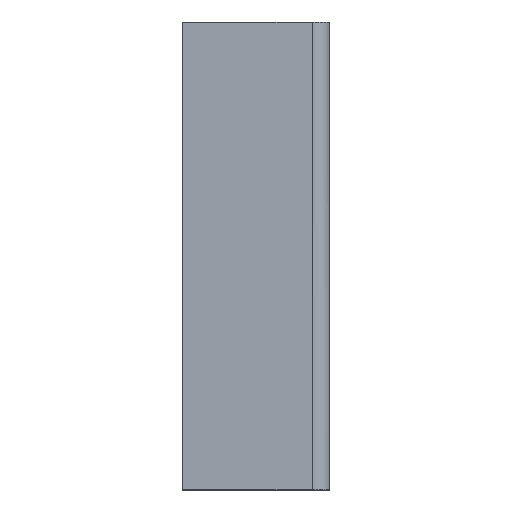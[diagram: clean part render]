
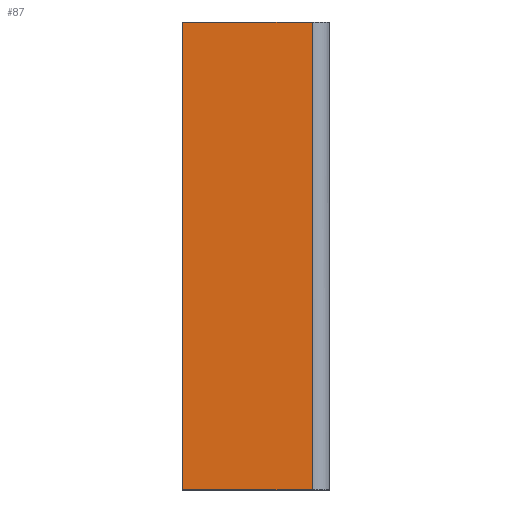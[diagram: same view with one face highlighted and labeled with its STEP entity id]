
A CAD part, left-side view. The second image highlights one B-rep face of the part: STEP entity #87.
In plain terms, the highlighted free-form (B-spline) face has degree [2, 1] with [3, 2] control points.
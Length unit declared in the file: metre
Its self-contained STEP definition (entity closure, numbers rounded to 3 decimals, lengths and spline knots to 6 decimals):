
#87=ADVANCED_FACE('',(#147),#2101,.T.);
#147=FACE_OUTER_BOUND('',#209,.T.);
#209=EDGE_LOOP('',(#359,#360,#361,#362));
#359=ORIENTED_EDGE('',*,*,#1614,.T.);
#360=ORIENTED_EDGE('',*,*,#1595,.F.);
#361=ORIENTED_EDGE('',*,*,#1615,.T.);
#362=ORIENTED_EDGE('',*,*,#1612,.F.);
#646=PCURVE('',#2094,#958);
#668=PCURVE('',#2100,#980);
#671=PCURVE('',#2101,#983);
#672=PCURVE('',#2101,#984);
#673=PCURVE('',#2101,#985);
#674=PCURVE('',#2101,#986);
#695=PCURVE('',#2075,#1007);
#715=PCURVE('',#2076,#1027);
#958=DEFINITIONAL_REPRESENTATION('',(#1244),#3752);
#980=DEFINITIONAL_REPRESENTATION('',(#1266),#3752);
#983=DEFINITIONAL_REPRESENTATION('',(#1269),#3752);
#984=DEFINITIONAL_REPRESENTATION('',(#1270),#3752);
#985=DEFINITIONAL_REPRESENTATION('',(#1271),#3752);
#986=DEFINITIONAL_REPRESENTATION('',(#1272),#3752);
#1007=DEFINITIONAL_REPRESENTATION('',(#1813),#3752);
#1027=DEFINITIONAL_REPRESENTATION('',(#1833),#3752);
#1244=B_SPLINE_CURVE_WITH_KNOTS('',1,(#2685,#2686),.UNSPECIFIED.,.F.,.F.,
(2,2),(-150.,0.),.UNSPECIFIED.);
#1266=B_SPLINE_CURVE_WITH_KNOTS('',1,(#2774,#2775),.UNSPECIFIED.,.F.,.F.,
(2,2),(0.,150.),.UNSPECIFIED.);
#1269=B_SPLINE_CURVE_WITH_KNOTS('',1,(#2786,#2787),.UNSPECIFIED.,.F.,.F.,
(2,2),(169.216762,244.069575),.UNSPECIFIED.);
#1270=B_SPLINE_CURVE_WITH_KNOTS('',1,(#2788,#2789),.UNSPECIFIED.,.F.,.F.,
(2,2),(-150.,0.),.UNSPECIFIED.);
#1271=B_SPLINE_CURVE_WITH_KNOTS('',1,(#2793,#2794),.UNSPECIFIED.,.F.,.F.,
(2,2),(-244.069575,-169.216762),.UNSPECIFIED.);
#1272=B_SPLINE_CURVE_WITH_KNOTS('',1,(#2795,#2796),.UNSPECIFIED.,.F.,.F.,
(2,2),(0.,150.),.UNSPECIFIED.);
#1439=SURFACE_CURVE('',#1777,(#646,#672),.PCURVE_S1.);
#1456=SURFACE_CURVE('',#1794,(#668,#674),.PCURVE_S1.);
#1458=SURFACE_CURVE('',#1796,(#671,#695),.PCURVE_S1.);
#1459=SURFACE_CURVE('',#1797,(#673,#715),.PCURVE_S1.);
#1595=EDGE_CURVE('',#1998,#1995,#1439,.T.);
#1612=EDGE_CURVE('',#2009,#2010,#1456,.T.);
#1614=EDGE_CURVE('',#2009,#1995,#1458,.T.);
#1615=EDGE_CURVE('',#1998,#2010,#1459,.T.);
#1777=(
BOUNDED_CURVE()
B_SPLINE_CURVE(1,(#2683,#2684),.UNSPECIFIED.,.F.,.F.)
B_SPLINE_CURVE_WITH_KNOTS((2,2),(-150.,0.),.UNSPECIFIED.)
CURVE()
GEOMETRIC_REPRESENTATION_ITEM()
RATIONAL_B_SPLINE_CURVE((1.,1.))
REPRESENTATION_ITEM('')
);
#1794=(
BOUNDED_CURVE()
B_SPLINE_CURVE(1,(#2772,#2773),.UNSPECIFIED.,.F.,.F.)
B_SPLINE_CURVE_WITH_KNOTS((2,2),(0.,150.),.UNSPECIFIED.)
CURVE()
GEOMETRIC_REPRESENTATION_ITEM()
RATIONAL_B_SPLINE_CURVE((1.,1.))
REPRESENTATION_ITEM('')
);
#1796=(
BOUNDED_CURVE()
B_SPLINE_CURVE(2,(#2783,#2784,#2785),.UNSPECIFIED.,.F.,.F.)
B_SPLINE_CURVE_WITH_KNOTS((3,3),(169.216762,244.069575),
 .UNSPECIFIED.)
CURVE()
GEOMETRIC_REPRESENTATION_ITEM()
RATIONAL_B_SPLINE_CURVE((1.,1.,1.))
REPRESENTATION_ITEM('')
);
#1797=(
BOUNDED_CURVE()
B_SPLINE_CURVE(2,(#2790,#2791,#2792),.UNSPECIFIED.,.F.,.F.)
B_SPLINE_CURVE_WITH_KNOTS((3,3),(-244.069575,-169.216762),
 .UNSPECIFIED.)
CURVE()
GEOMETRIC_REPRESENTATION_ITEM()
RATIONAL_B_SPLINE_CURVE((1.,1.,1.))
REPRESENTATION_ITEM('')
);
#1813=(
BOUNDED_CURVE()
B_SPLINE_CURVE(2,(#2877,#2878,#2879),.UNSPECIFIED.,.F.,.F.)
B_SPLINE_CURVE_WITH_KNOTS((3,3),(169.216762,244.069575),
 .UNSPECIFIED.)
CURVE()
GEOMETRIC_REPRESENTATION_ITEM()
RATIONAL_B_SPLINE_CURVE((1.,1.,1.))
REPRESENTATION_ITEM('')
);
#1833=(
BOUNDED_CURVE()
B_SPLINE_CURVE(2,(#2937,#2938,#2939),.UNSPECIFIED.,.F.,.F.)
B_SPLINE_CURVE_WITH_KNOTS((3,3),(-244.069575,-169.216762),
 .UNSPECIFIED.)
CURVE()
GEOMETRIC_REPRESENTATION_ITEM()
RATIONAL_B_SPLINE_CURVE((1.,1.,1.))
REPRESENTATION_ITEM('')
);
#1995=VERTEX_POINT('',#2643);
#1998=VERTEX_POINT('',#2646);
#2009=VERTEX_POINT('',#2657);
#2010=VERTEX_POINT('',#2658);
#2075=B_SPLINE_SURFACE_WITH_KNOTS('',1,1,((#2635,#2636),(#2637,#2638)),
 .UNSPECIFIED.,.F.,.F.,.F.,(2,2),(2,2),(-83.459415,22.606602),
(-83.459415,22.606602),.UNSPECIFIED.);
#2076=B_SPLINE_SURFACE_WITH_KNOTS('',1,1,((#2639,#2640),(#2641,#2642)),
 .UNSPECIFIED.,.F.,.F.,.F.,(2,2),(2,2),(-83.459415,22.606602),
(-83.459415,22.606602),.UNSPECIFIED.);
#2094=(
BOUNDED_SURFACE()
B_SPLINE_SURFACE(2,1,((#2557,#2558),(#2559,#2560),(#2561,#2562)),
 .UNSPECIFIED.,.F.,.F.,.F.)
B_SPLINE_SURFACE_WITH_KNOTS((3,3),(2,2),(-15.707963,0.),(0.,150.),
 .UNSPECIFIED.)
GEOMETRIC_REPRESENTATION_ITEM()
RATIONAL_B_SPLINE_SURFACE(((1.,1.),(0.707,0.707),
(1.,1.)))
REPRESENTATION_ITEM('')
SURFACE()
);
#2100=(
BOUNDED_SURFACE()
B_SPLINE_SURFACE(2,1,((#2593,#2594),(#2595,#2596),(#2597,#2598)),
 .UNSPECIFIED.,.F.,.F.,.F.)
B_SPLINE_SURFACE_WITH_KNOTS((3,3),(2,2),(99.216762,169.216762),
(0.,150.),.UNSPECIFIED.)
GEOMETRIC_REPRESENTATION_ITEM()
RATIONAL_B_SPLINE_SURFACE(((1.,1.),(1.,1.),(1.,1.)))
REPRESENTATION_ITEM('')
SURFACE()
);
#2101=(
BOUNDED_SURFACE()
B_SPLINE_SURFACE(2,1,((#2599,#2600),(#2601,#2602),(#2603,#2604)),
 .UNSPECIFIED.,.F.,.F.,.F.)
B_SPLINE_SURFACE_WITH_KNOTS((3,3),(2,2),(169.216762,244.069575),
(0.,150.),.UNSPECIFIED.)
GEOMETRIC_REPRESENTATION_ITEM()
RATIONAL_B_SPLINE_SURFACE(((1.,1.),(1.,1.),(1.,1.)))
REPRESENTATION_ITEM('')
SURFACE()
);
#2557=CARTESIAN_POINT('',(-56829.126433,-4624.,-1.5));
#2558=CARTESIAN_POINT('',(-56829.126433,-4624.,268.5));
#2559=CARTESIAN_POINT('',(-56829.126433,-4634.,-1.5));
#2560=CARTESIAN_POINT('',(-56829.126433,-4634.,268.5));
#2561=CARTESIAN_POINT('',(-56819.126433,-4634.,-1.5));
#2562=CARTESIAN_POINT('',(-56819.126433,-4634.,268.5));
#2593=CARTESIAN_POINT('',(-56759.126433,-4549.147186,-1.5));
#2594=CARTESIAN_POINT('',(-56759.126433,-4549.147186,268.5));
#2595=CARTESIAN_POINT('',(-56794.126433,-4549.147186,-1.5));
#2596=CARTESIAN_POINT('',(-56794.126433,-4549.147186,268.5));
#2597=CARTESIAN_POINT('',(-56829.126433,-4549.147186,-1.5));
#2598=CARTESIAN_POINT('',(-56829.126433,-4549.147186,268.5));
#2599=CARTESIAN_POINT('',(-56829.126433,-4549.147186,-1.5));
#2600=CARTESIAN_POINT('',(-56829.126433,-4549.147186,268.5));
#2601=CARTESIAN_POINT('',(-56829.126433,-4586.573593,-1.5));
#2602=CARTESIAN_POINT('',(-56829.126433,-4586.573593,268.5));
#2603=CARTESIAN_POINT('',(-56829.126433,-4624.,-1.5));
#2604=CARTESIAN_POINT('',(-56829.126433,-4624.,268.5));
#2635=CARTESIAN_POINT('',(-56733.667018,-4538.540585,-1.5));
#2636=CARTESIAN_POINT('',(-56839.733035,-4538.540585,-1.5));
#2637=CARTESIAN_POINT('',(-56733.667018,-4644.606602,-1.5));
#2638=CARTESIAN_POINT('',(-56839.733035,-4644.606602,-1.5));
#2639=CARTESIAN_POINT('',(-56733.667018,-4538.540585,268.5));
#2640=CARTESIAN_POINT('',(-56733.667018,-4644.606602,268.5));
#2641=CARTESIAN_POINT('',(-56839.733035,-4538.540585,268.5));
#2642=CARTESIAN_POINT('',(-56839.733035,-4644.606602,268.5));
#2643=CARTESIAN_POINT('',(-56829.126433,-4624.,-1.5));
#2646=CARTESIAN_POINT('',(-56829.126433,-4624.,268.5));
#2657=CARTESIAN_POINT('',(-56829.126433,-4549.147186,-1.5));
#2658=CARTESIAN_POINT('',(-56829.126433,-4549.147186,268.5));
#2683=CARTESIAN_POINT('',(-56829.126433,-4624.,268.5));
#2684=CARTESIAN_POINT('',(-56829.126433,-4624.,-1.5));
#2685=CARTESIAN_POINT('',(-15.708,150.));
#2686=CARTESIAN_POINT('',(-15.708,0.));
#2772=CARTESIAN_POINT('',(-56829.126433,-4549.147186,-1.5));
#2773=CARTESIAN_POINT('',(-56829.126433,-4549.147186,268.5));
#2774=CARTESIAN_POINT('',(169.217,0.));
#2775=CARTESIAN_POINT('',(169.217,150.));
#2783=CARTESIAN_POINT('',(-56829.126433,-4549.147186,-1.5));
#2784=CARTESIAN_POINT('',(-56829.126433,-4586.573593,-1.5));
#2785=CARTESIAN_POINT('',(-56829.126433,-4624.,-1.5));
#2786=CARTESIAN_POINT('',(169.217,0.));
#2787=CARTESIAN_POINT('',(244.07,0.));
#2788=CARTESIAN_POINT('',(244.07,150.));
#2789=CARTESIAN_POINT('',(244.07,0.));
#2790=CARTESIAN_POINT('',(-56829.126433,-4624.,268.5));
#2791=CARTESIAN_POINT('',(-56829.126433,-4586.573593,268.5));
#2792=CARTESIAN_POINT('',(-56829.126433,-4549.147186,268.5));
#2793=CARTESIAN_POINT('',(244.07,150.));
#2794=CARTESIAN_POINT('',(169.217,150.));
#2795=CARTESIAN_POINT('',(169.217,0.));
#2796=CARTESIAN_POINT('',(169.217,150.));
#2877=CARTESIAN_POINT('',(-72.853,12.));
#2878=CARTESIAN_POINT('',(-35.426,12.));
#2879=CARTESIAN_POINT('',(2.,12.));
#2937=CARTESIAN_POINT('',(12.,2.));
#2938=CARTESIAN_POINT('',(12.,-35.426));
#2939=CARTESIAN_POINT('',(12.,-72.853));
#3752=(
GEOMETRIC_REPRESENTATION_CONTEXT(2)
PARAMETRIC_REPRESENTATION_CONTEXT()
REPRESENTATION_CONTEXT('pspace','')
);
